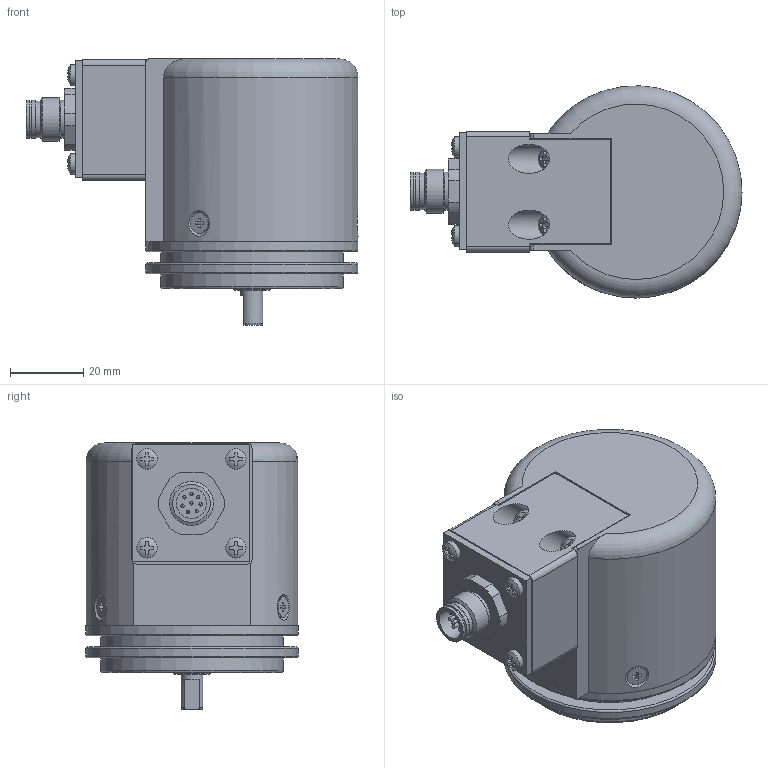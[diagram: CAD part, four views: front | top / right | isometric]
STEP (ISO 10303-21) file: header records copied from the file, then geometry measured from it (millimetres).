
FILE_DESCRIPTION(/* description */ ('Unknown'),/* implementation_level */ '2;1');
FILE_NAME(/* name */ 'EL_EMI_EMIP_ER_58B_6_M12R_8P',/* time_stamp */ '2022-08-31T14:02:56+02:00',/* author */ ('Unknown'),/* organization */ ('Unknown'),/* preprocessor_version */ 'ST-DEVELOPER v16.7',/* originating_system */ 'DEX',/* authorisation */ $);
FILE_SCHEMA (('AUTOMOTIVE_DESIGN {1 0 10303 214 3 1 1}'));
Length unit declared in the file: millimetre
Products named in the file (1): EL_EMI_EMIP_ER_58B_6_M12R_8P
Bounding box: 90.8 x 58 x 72.8 mm (x, y, z)
Volume: 100208.1 mm3; surface area: 67602.3 mm2
Topology: 38 solids, 40 shells, 746 faces, 1793 edges, 1158 vertices
Faces by surface type: plane 326, cylinder 244, torus 73, cone 53, bspline 28, sphere 22
Full cylindrical faces by diameter (mm): 0.9 x16, 1.5 x8, 2 x2, 2.05 x2, 2.2 x28, 2.459 x3, 2.5 x7, 3 x3, 3.242 x3, 3.5 x7, 4 x2, 4.5 x2, 5.6 x7, 6 x2, 7 x1, 8 x2, 8.25 x1, 10 x14, 10.4 x3, 10.5 x1, 11 x1, 12 x2, 12.4 x1, 13 x1, 13.8 x1, 14.5 x4, 14.53 x1, 15.2 x1, 20 x1, 21.2 x4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
Entity records: 29375 total; most frequent: CARTESIAN_POINT 13221, DIRECTION 3114, ORIENTED_EDGE 2674, EDGE_CURVE 1337, AXIS2_PLACEMENT_3D 1253, FACE_BOUND 1040, EDGE_LOOP 1006, VERTEX_POINT 1005
